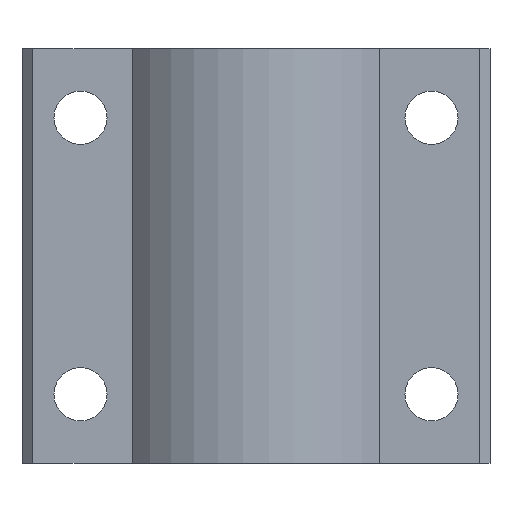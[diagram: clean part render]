
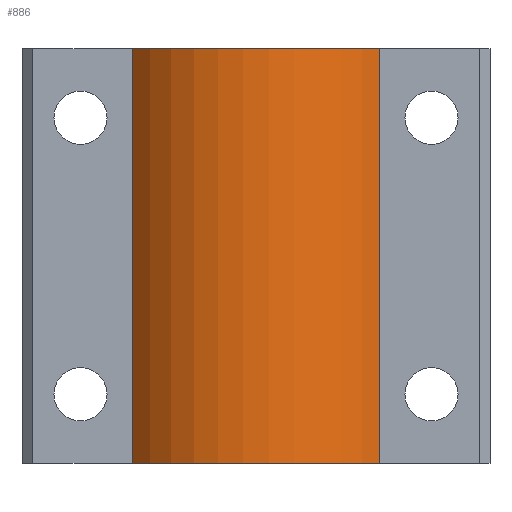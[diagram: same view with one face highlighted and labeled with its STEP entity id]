
A CAD part, front view. The second image highlights one B-rep face of the part: STEP entity #886.
In plain terms, the highlighted cylindrical face has radius 15 mm (diameter 30 mm), a partial arc.
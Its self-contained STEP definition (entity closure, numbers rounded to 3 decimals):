
#689=CARTESIAN_POINT('',(10.899,-5.302,-3.5));
#690=VERTEX_POINT('',#689);
#697=CARTESIAN_POINT('',(-12.317,-5.302,-3.5));
#698=VERTEX_POINT('',#697);
#699=CARTESIAN_POINT('',(-0.709,4.198,-3.5));
#700=DIRECTION('',(0.0,0.0,1.0));
#701=DIRECTION('',(0.774,0.633,0.0));
#702=AXIS2_PLACEMENT_3D('',#699,#700,#701);
#703=CIRCLE('',#702,15.);
#704=EDGE_CURVE('',#698,#690,#703,.T.);
#835=CARTESIAN_POINT('',(10.899,-5.302,35.5));
#836=VERTEX_POINT('',#835);
#843=CARTESIAN_POINT('',(10.899,-5.302,35.5));
#844=DIRECTION('',(0.0,0.0,-1.0));
#845=VECTOR('',#844,39.);
#846=LINE('',#843,#845);
#847=EDGE_CURVE('',#836,#690,#846,.T.);
#862=CARTESIAN_POINT('',(-0.709,4.198,16.0));
#863=DIRECTION('',(0.0,0.0,1.0));
#864=DIRECTION('',(0.774,0.633,0.0));
#865=AXIS2_PLACEMENT_3D('',#862,#863,#864);
#866=CYLINDRICAL_SURFACE('',#865,15.);
#867=CARTESIAN_POINT('',(-12.317,-5.302,35.5));
#868=VERTEX_POINT('',#867);
#869=CARTESIAN_POINT('',(-0.709,4.198,35.5));
#870=DIRECTION('',(0.0,0.0,-1.0));
#871=DIRECTION('',(0.774,0.633,0.0));
#872=AXIS2_PLACEMENT_3D('',#869,#870,#871);
#873=CIRCLE('',#872,15.);
#874=EDGE_CURVE('',#836,#868,#873,.T.);
#875=ORIENTED_EDGE('',*,*,#874,.T.);
#876=CARTESIAN_POINT('',(-12.317,-5.302,35.5));
#877=DIRECTION('',(0.0,0.0,-1.0));
#878=VECTOR('',#877,39.);
#879=LINE('',#876,#878);
#880=EDGE_CURVE('',#868,#698,#879,.T.);
#881=ORIENTED_EDGE('',*,*,#880,.T.);
#882=ORIENTED_EDGE('',*,*,#704,.T.);
#883=ORIENTED_EDGE('',*,*,#847,.F.);
#884=EDGE_LOOP('',(#875,#881,#882,#883));
#885=FACE_OUTER_BOUND('',#884,.T.);
#886=ADVANCED_FACE('',(#885),#866,.T.);
